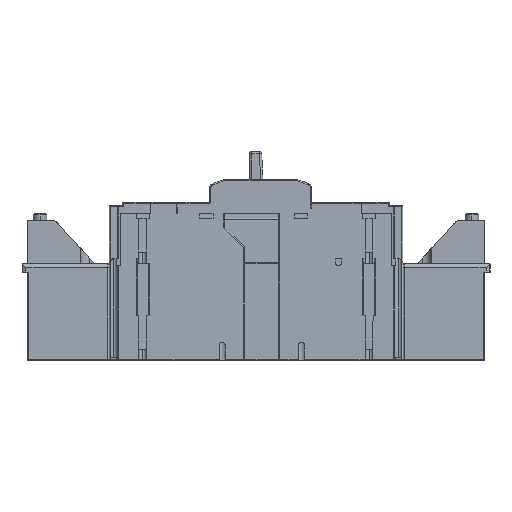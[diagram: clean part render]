
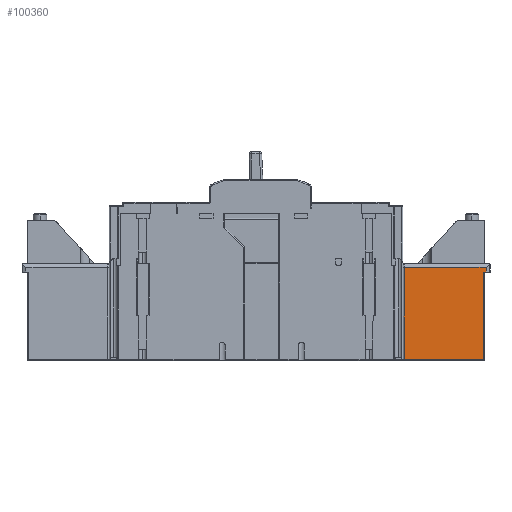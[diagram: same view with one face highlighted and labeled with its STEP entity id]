
A CAD part, left-side view. The second image highlights one B-rep face of the part: STEP entity #100360.
In plain terms, the highlighted planar face has unit normal (-1, 0, 0).
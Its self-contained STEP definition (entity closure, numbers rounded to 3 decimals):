
#4855 = VERTEX_POINT ( 'NONE', #15790 ) ;
#5247 = VERTEX_POINT ( 'NONE', #16163 ) ;
#14783 = VERTEX_POINT ( 'NONE', #83516 ) ;
#15265 = VERTEX_POINT ( 'NONE', #83704 ) ;
#15790 = CARTESIAN_POINT ( 'NONE',  ( -57.397, -101.941, 3.985 ) ) ;
#16163 = CARTESIAN_POINT ( 'NONE',  ( -57.397, -100.674, 3.985 ) ) ;
#45998 = VECTOR ( 'NONE', #155207, 1000. ) ;
#74742 = ORIENTED_EDGE ( 'NONE', *, *, #212997, .T. ) ;
#74752 = ORIENTED_EDGE ( 'NONE', *, *, #213001, .T. ) ;
#74763 = ORIENTED_EDGE ( 'NONE', *, *, #212980, .T. ) ;
#74772 = ORIENTED_EDGE ( 'NONE', *, *, #215811, .F. ) ;
#74782 = ORIENTED_EDGE ( 'NONE', *, *, #213060, .T. ) ;
#74791 = ORIENTED_EDGE ( 'NONE', *, *, #213485, .T. ) ;
#81343 = LINE ( 'NONE', #81360, #212525 ) ;
#81360 = CARTESIAN_POINT ( 'NONE',  ( -57.397, -101.174, 3.985 ) ) ;
#81364 = DIRECTION ( 'NONE',  ( 0., -1., 0. ) ) ;
#82793 = EDGE_LOOP ( 'NONE', ( #74742, #74752, #74763, #74772, #74782, #74791 ) ) ;
#83516 = CARTESIAN_POINT ( 'NONE',  ( -57.397, -100.674, -34.615 ) ) ;
#83704 = CARTESIAN_POINT ( 'NONE',  ( -57.397, -65.674, -34.615 ) ) ;
#100360 = ADVANCED_FACE ( 'NONE', ( #194338 ), #194442, .T. ) ;
#155192 = LINE ( 'NONE', #155202, #45998 ) ;
#155202 = CARTESIAN_POINT ( 'NONE',  ( -57.397, -101.174, -34.615 ) ) ;
#155207 = DIRECTION ( 'NONE',  ( 0., 1., 0. ) ) ;
#174465 = VERTEX_POINT ( 'NONE', #225996 ) ;
#174946 = VERTEX_POINT ( 'NONE', #226606 ) ;
#188660 = AXIS2_PLACEMENT_3D ( 'NONE', #194484, #194487, #194490 ) ;
#194338 = FACE_OUTER_BOUND ( 'NONE', #82793, .T. ) ;
#194442 = PLANE ( 'NONE',  #188660 ) ;
#194484 = CARTESIAN_POINT ( 'NONE',  ( -57.397, -101.174, -14.115 ) ) ;
#194487 = DIRECTION ( 'NONE',  ( -1., 0., 0. ) ) ;
#194490 = DIRECTION ( 'NONE',  ( 0., -1., 0. ) ) ;
#195664 = LINE ( 'NONE', #195691, #211268 ) ;
#195691 = CARTESIAN_POINT ( 'NONE',  ( -57.397, -65.674, -14.115 ) ) ;
#195698 = DIRECTION ( 'NONE',  ( 0., 0., -1. ) ) ;
#195747 = LINE ( 'NONE', #195774, #211290 ) ;
#195762 = LINE ( 'NONE', #195764, #211295 ) ;
#195764 = CARTESIAN_POINT ( 'NONE',  ( -57.397, -101.941, -14.115 ) ) ;
#195765 = DIRECTION ( 'NONE',  ( 0., 0., 1. ) ) ;
#195774 = CARTESIAN_POINT ( 'NONE',  ( -57.397, -101.174, 6.053 ) ) ;
#195777 = DIRECTION ( 'NONE',  ( 0., 1., 0. ) ) ;
#195930 = LINE ( 'NONE', #195972, #211368 ) ;
#195972 = CARTESIAN_POINT ( 'NONE',  ( -57.397, -100.674, -14.115 ) ) ;
#195974 = DIRECTION ( 'NONE',  ( 0., 0., 1. ) ) ;
#211268 = VECTOR ( 'NONE', #195698, 1000. ) ;
#211290 = VECTOR ( 'NONE', #195777, 1000. ) ;
#211295 = VECTOR ( 'NONE', #195765, 1000. ) ;
#211368 = VECTOR ( 'NONE', #195974, 1000. ) ;
#212525 = VECTOR ( 'NONE', #81364, 1000. ) ;
#212980 = EDGE_CURVE ( 'NONE', #174946, #15265, #195664, .T. ) ;
#212997 = EDGE_CURVE ( 'NONE', #4855, #174465, #195762, .T. ) ;
#213001 = EDGE_CURVE ( 'NONE', #174465, #174946, #195747, .T. ) ;
#213060 = EDGE_CURVE ( 'NONE', #14783, #5247, #195930, .T. ) ;
#213485 = EDGE_CURVE ( 'NONE', #5247, #4855, #81343, .T. ) ;
#215811 = EDGE_CURVE ( 'NONE', #14783, #15265, #155192, .T. ) ;
#225996 = CARTESIAN_POINT ( 'NONE',  ( -57.397, -101.941, 6.053 ) ) ;
#226606 = CARTESIAN_POINT ( 'NONE',  ( -57.397, -65.674, 6.053 ) ) ;
